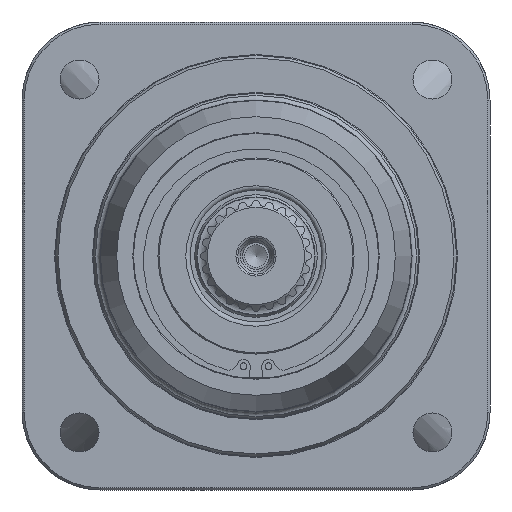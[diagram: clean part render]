
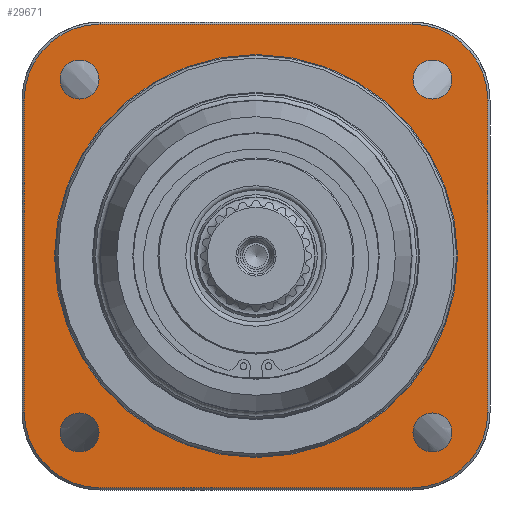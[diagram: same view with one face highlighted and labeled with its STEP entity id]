
A CAD part, front view. The second image highlights one B-rep face of the part: STEP entity #29671.
In plain terms, the highlighted planar face has unit normal (0, -1, 0).
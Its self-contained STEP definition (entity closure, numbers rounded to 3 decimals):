
#3046=LINE('',#51746,#5280);
#3047=LINE('',#51750,#5281);
#3048=LINE('',#51754,#5282);
#3049=LINE('',#51757,#5283);
#5280=VECTOR('',#38767,10.);
#5281=VECTOR('',#38770,10.);
#5282=VECTOR('',#38773,10.);
#5283=VECTOR('',#38776,10.);
#6398=PLANE('',#32099);
#6725=FACE_BOUND('',#10022,.T.);
#6726=FACE_BOUND('',#10023,.T.);
#6727=FACE_BOUND('',#10024,.T.);
#6728=FACE_BOUND('',#10025,.T.);
#6729=FACE_BOUND('',#10026,.T.);
#8095=FACE_OUTER_BOUND('',#10021,.T.);
#10021=EDGE_LOOP('',(#24729,#24730,#24731,#24732,#24733,#24734,#24735,#24736));
#10022=EDGE_LOOP('',(#24737));
#10023=EDGE_LOOP('',(#24738));
#10024=EDGE_LOOP('',(#24739));
#10025=EDGE_LOOP('',(#24740));
#10026=EDGE_LOOP('',(#24741));
#11192=CIRCLE('',#31978,8.75);
#11194=CIRCLE('',#31981,8.75);
#11196=CIRCLE('',#31984,8.75);
#11198=CIRCLE('',#31987,8.75);
#11256=CIRCLE('',#32098,90.4);
#11257=CIRCLE('',#32100,34.);
#11258=CIRCLE('',#32101,34.);
#11259=CIRCLE('',#32102,34.);
#11260=CIRCLE('',#32103,34.);
#13684=VERTEX_POINT('',#51391);
#13686=VERTEX_POINT('',#51396);
#13688=VERTEX_POINT('',#51401);
#13690=VERTEX_POINT('',#51406);
#13777=VERTEX_POINT('',#51739);
#13778=VERTEX_POINT('',#51742);
#13779=VERTEX_POINT('',#51743);
#13780=VERTEX_POINT('',#51745);
#13781=VERTEX_POINT('',#51747);
#13782=VERTEX_POINT('',#51749);
#13783=VERTEX_POINT('',#51751);
#13784=VERTEX_POINT('',#51753);
#13785=VERTEX_POINT('',#51755);
#17370=EDGE_CURVE('',#13684,#13684,#11192,.T.);
#17372=EDGE_CURVE('',#13686,#13686,#11194,.T.);
#17374=EDGE_CURVE('',#13688,#13688,#11196,.T.);
#17376=EDGE_CURVE('',#13690,#13690,#11198,.T.);
#17488=EDGE_CURVE('',#13777,#13777,#11256,.T.);
#17489=EDGE_CURVE('',#13778,#13779,#11257,.T.);
#17490=EDGE_CURVE('',#13780,#13778,#3046,.T.);
#17491=EDGE_CURVE('',#13781,#13780,#11258,.T.);
#17492=EDGE_CURVE('',#13782,#13781,#3047,.T.);
#17493=EDGE_CURVE('',#13783,#13782,#11259,.T.);
#17494=EDGE_CURVE('',#13784,#13783,#3048,.T.);
#17495=EDGE_CURVE('',#13785,#13784,#11260,.T.);
#17496=EDGE_CURVE('',#13779,#13785,#3049,.T.);
#24729=ORIENTED_EDGE('',*,*,#17489,.F.);
#24730=ORIENTED_EDGE('',*,*,#17490,.F.);
#24731=ORIENTED_EDGE('',*,*,#17491,.F.);
#24732=ORIENTED_EDGE('',*,*,#17492,.F.);
#24733=ORIENTED_EDGE('',*,*,#17493,.F.);
#24734=ORIENTED_EDGE('',*,*,#17494,.F.);
#24735=ORIENTED_EDGE('',*,*,#17495,.F.);
#24736=ORIENTED_EDGE('',*,*,#17496,.F.);
#24737=ORIENTED_EDGE('',*,*,#17370,.T.);
#24738=ORIENTED_EDGE('',*,*,#17372,.T.);
#24739=ORIENTED_EDGE('',*,*,#17374,.T.);
#24740=ORIENTED_EDGE('',*,*,#17376,.T.);
#24741=ORIENTED_EDGE('',*,*,#17488,.F.);
#29671=ADVANCED_FACE('',(#8095,#6725,#6726,#6727,#6728,#6729),#6398,.F.);
#31978=AXIS2_PLACEMENT_3D('',#51392,#38489,#38490);
#31981=AXIS2_PLACEMENT_3D('',#51397,#38495,#38496);
#31984=AXIS2_PLACEMENT_3D('',#51402,#38501,#38502);
#31987=AXIS2_PLACEMENT_3D('',#51407,#38507,#38508);
#32098=AXIS2_PLACEMENT_3D('',#51740,#38761,#38762);
#32099=AXIS2_PLACEMENT_3D('',#51741,#38763,#38764);
#32100=AXIS2_PLACEMENT_3D('',#51744,#38765,#38766);
#32101=AXIS2_PLACEMENT_3D('',#51748,#38768,#38769);
#32102=AXIS2_PLACEMENT_3D('',#51752,#38771,#38772);
#32103=AXIS2_PLACEMENT_3D('',#51756,#38774,#38775);
#38489=DIRECTION('center_axis',(0.,1.,0.));
#38490=DIRECTION('ref_axis',(-1.,0.,0.));
#38495=DIRECTION('center_axis',(0.,1.,0.));
#38496=DIRECTION('ref_axis',(-1.,0.,0.));
#38501=DIRECTION('center_axis',(0.,1.,0.));
#38502=DIRECTION('ref_axis',(-1.,0.,0.));
#38507=DIRECTION('center_axis',(0.,1.,0.));
#38508=DIRECTION('ref_axis',(-1.,0.,0.));
#38761=DIRECTION('center_axis',(0.,-1.,0.));
#38762=DIRECTION('ref_axis',(0.,0.,1.));
#38763=DIRECTION('center_axis',(0.,1.,0.));
#38764=DIRECTION('ref_axis',(0.,0.,1.));
#38765=DIRECTION('center_axis',(0.,1.,0.));
#38766=DIRECTION('ref_axis',(1.,0.,0.));
#38767=DIRECTION('',(1.,0.,0.));
#38768=DIRECTION('center_axis',(0.,1.,0.));
#38769=DIRECTION('ref_axis',(-1.,0.,0.));
#38770=DIRECTION('',(0.,0.,1.));
#38771=DIRECTION('center_axis',(0.,1.,0.));
#38772=DIRECTION('ref_axis',(0.,0.,
-1.));
#38773=DIRECTION('',(-1.,0.,0.));
#38774=DIRECTION('center_axis',(0.,1.,0.));
#38775=DIRECTION('ref_axis',(0.,0.,
-1.));
#38776=DIRECTION('',(0.,0.,-1.));
#51391=CARTESIAN_POINT('',(87.946,-154.,-79.196));
#51392=CARTESIAN_POINT('Origin',(79.196,-154.,-79.196));
#51396=CARTESIAN_POINT('',(-70.446,-154.,-79.196));
#51397=CARTESIAN_POINT('Origin',(-79.196,-154.,-79.196));
#51401=CARTESIAN_POINT('',(-70.446,-154.,79.196));
#51402=CARTESIAN_POINT('Origin',(-79.196,-154.,79.196));
#51406=CARTESIAN_POINT('',(87.946,-154.,79.196));
#51407=CARTESIAN_POINT('Origin',(79.196,-154.,79.196));
#51739=CARTESIAN_POINT('',(0.,-154.,90.4));
#51740=CARTESIAN_POINT('Origin',(0.,-154.,0.));
#51741=CARTESIAN_POINT('Origin',(0.,-154.,148.48));
#51742=CARTESIAN_POINT('',(70.,-154.,104.));
#51743=CARTESIAN_POINT('',(104.,-154.,70.));
#51744=CARTESIAN_POINT('Origin',(70.,-154.,70.));
#51745=CARTESIAN_POINT('',(-70.,-154.,104.));
#51746=CARTESIAN_POINT('',(-12.374,-154.,104.));
#51747=CARTESIAN_POINT('',(-104.,-154.,70.));
#51748=CARTESIAN_POINT('Origin',(-70.,-154.,70.));
#51749=CARTESIAN_POINT('',(-104.,-154.,-70.));
#51750=CARTESIAN_POINT('',(-104.,-154.,91.74));
#51751=CARTESIAN_POINT('',(-70.,-154.,-104.));
#51752=CARTESIAN_POINT('Origin',(-70.,-154.,-70.));
#51753=CARTESIAN_POINT('',(70.,-154.,-104.));
#51754=CARTESIAN_POINT('',(-29.874,-154.,-104.));
#51755=CARTESIAN_POINT('',(104.,-154.,-70.));
#51756=CARTESIAN_POINT('Origin',(70.,-154.,-70.));
#51757=CARTESIAN_POINT('',(104.,-154.,91.74));
